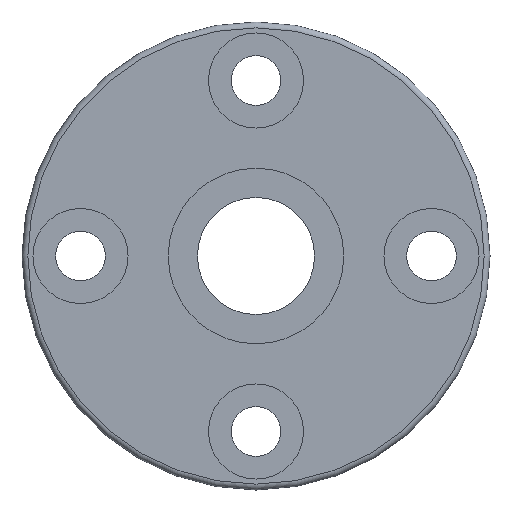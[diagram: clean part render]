
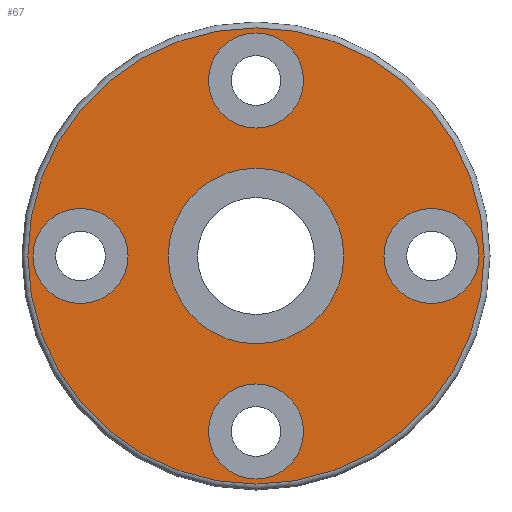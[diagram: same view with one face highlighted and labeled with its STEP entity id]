
A CAD part, left-side view. The second image highlights one B-rep face of the part: STEP entity #67.
In plain terms, the highlighted planar face has unit normal (-1, 0, 0).
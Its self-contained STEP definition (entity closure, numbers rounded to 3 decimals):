
#67 = ADVANCED_FACE( '', ( #154, #155, #156, #157, #158, #159 ), #160, .T. );
#154 = FACE_BOUND( '', #277, .T. );
#155 = FACE_BOUND( '', #278, .T. );
#156 = FACE_BOUND( '', #279, .T. );
#157 = FACE_BOUND( '', #280, .T. );
#158 = FACE_BOUND( '', #281, .T. );
#159 = FACE_OUTER_BOUND( '', #282, .T. );
#160 = PLANE( '', #283 );
#277 = EDGE_LOOP( '', ( #410 ) );
#278 = EDGE_LOOP( '', ( #411 ) );
#279 = EDGE_LOOP( '', ( #412 ) );
#280 = EDGE_LOOP( '', ( #413 ) );
#281 = EDGE_LOOP( '', ( #414 ) );
#282 = EDGE_LOOP( '', ( #415 ) );
#283 = AXIS2_PLACEMENT_3D( '', #416, #417, #418 );
#410 = ORIENTED_EDGE( '', *, *, #554, .T. );
#411 = ORIENTED_EDGE( '', *, *, #555, .T. );
#412 = ORIENTED_EDGE( '', *, *, #544, .T. );
#413 = ORIENTED_EDGE( '', *, *, #556, .T. );
#414 = ORIENTED_EDGE( '', *, *, #557, .F. );
#415 = ORIENTED_EDGE( '', *, *, #558, .T. );
#416 = CARTESIAN_POINT( '', ( 0., 10.9, 0. ) );
#417 = DIRECTION( '', ( -1., 0., 0. ) );
#418 = DIRECTION( '', ( 0., 1., 0. ) );
#544 = EDGE_CURVE( '', #610, #610, #611, .T. );
#554 = EDGE_CURVE( '', #626, #626, #627, .T. );
#555 = EDGE_CURVE( '', #628, #628, #629, .T. );
#556 = EDGE_CURVE( '', #630, #630, #631, .T. );
#557 = EDGE_CURVE( '', #632, #632, #633, .T. );
#558 = EDGE_CURVE( '', #634, #634, #635, .T. );
#610 = VERTEX_POINT( '', #699 );
#611 = CIRCLE( '', #700, 3.25 );
#626 = VERTEX_POINT( '', #715 );
#627 = CIRCLE( '', #716, 3.25 );
#628 = VERTEX_POINT( '', #717 );
#629 = CIRCLE( '', #718, 3.25 );
#630 = VERTEX_POINT( '', #719 );
#631 = CIRCLE( '', #720, 3.25 );
#632 = VERTEX_POINT( '', #721 );
#633 = CIRCLE( '', #722, 6. );
#634 = VERTEX_POINT( '', #723 );
#635 = CIRCLE( '', #724, 15.6 );
#699 = CARTESIAN_POINT( '', ( 0., -15.25, 0. ) );
#700 = AXIS2_PLACEMENT_3D( '', #791, #792, #793 );
#715 = CARTESIAN_POINT( '', ( 0., 0., -15.25 ) );
#716 = AXIS2_PLACEMENT_3D( '', #809, #810, #811 );
#717 = CARTESIAN_POINT( '', ( 0., 0., 15.25 ) );
#718 = AXIS2_PLACEMENT_3D( '', #812, #813, #814 );
#719 = CARTESIAN_POINT( '', ( 0., 15.25, 0. ) );
#720 = AXIS2_PLACEMENT_3D( '', #815, #816, #817 );
#721 = CARTESIAN_POINT( '', ( 0., 6., 0. ) );
#722 = AXIS2_PLACEMENT_3D( '', #818, #819, #820 );
#723 = CARTESIAN_POINT( '', ( 0., 15.6, 0. ) );
#724 = AXIS2_PLACEMENT_3D( '', #821, #822, #823 );
#791 = CARTESIAN_POINT( '', ( 0., -12., 0. ) );
#792 = DIRECTION( '', ( 1., 0., 0. ) );
#793 = DIRECTION( '', ( 0., -1., 0. ) );
#809 = CARTESIAN_POINT( '', ( 0., 0., -12. ) );
#810 = DIRECTION( '', ( 1., 0., 0. ) );
#811 = DIRECTION( '', ( 0., 0., -1. ) );
#812 = CARTESIAN_POINT( '', ( 0., 0., 12. ) );
#813 = DIRECTION( '', ( 1., 0., 0. ) );
#814 = DIRECTION( '', ( 0., 0., 1. ) );
#815 = CARTESIAN_POINT( '', ( 0., 12., 0. ) );
#816 = DIRECTION( '', ( 1., 0., 0. ) );
#817 = DIRECTION( '', ( 0., 1., 0. ) );
#818 = CARTESIAN_POINT( '', ( 0., 0., 0. ) );
#819 = DIRECTION( '', ( -1., 0., 0. ) );
#820 = DIRECTION( '', ( 0., 1., 0. ) );
#821 = CARTESIAN_POINT( '', ( 0., 0., 0. ) );
#822 = DIRECTION( '', ( -1., 0., 0. ) );
#823 = DIRECTION( '', ( 0., 0., 1. ) );
